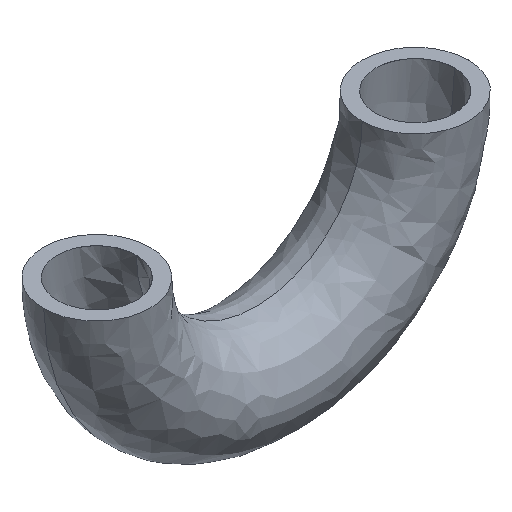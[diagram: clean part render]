
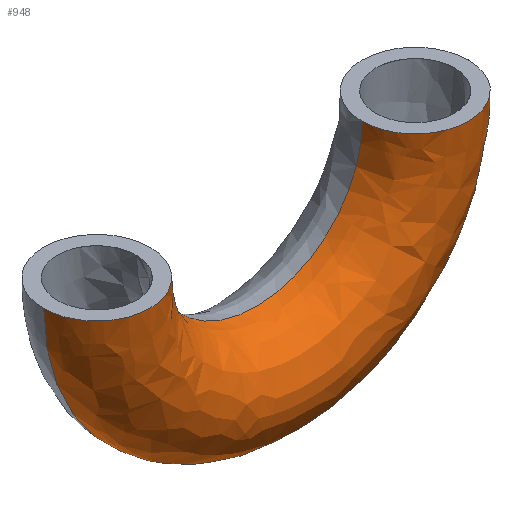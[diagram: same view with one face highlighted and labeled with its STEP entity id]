
A CAD part, isometric view. The second image highlights one B-rep face of the part: STEP entity #948.
In plain terms, the highlighted free-form (B-spline) face has degree [3, 3] with [4, 4] control points.
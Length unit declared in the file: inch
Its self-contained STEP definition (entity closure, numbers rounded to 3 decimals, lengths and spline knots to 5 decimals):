
#59 = CIRCLE ( 'NONE', #1510, 0.25 ) ;
#103 = ORIENTED_EDGE ( 'NONE', *, *, #581, .F. ) ;
#144 = EDGE_LOOP ( 'NONE', ( #103, #179, #1512, #2569 ) ) ;
#179 = ORIENTED_EDGE ( 'NONE', *, *, #1380, .T. ) ;
#186 = CARTESIAN_POINT ( 'NONE',  ( -0.74997, 0., -0.00671 ) ) ;
#251 = CARTESIAN_POINT ( 'NONE',  ( -0.23657, 0., -0.99994 ) ) ;
#260 = CARTESIAN_POINT ( 'NONE',  ( 0.25, 0., 0. ) ) ;
#440 = DIRECTION ( 'NONE',  ( -1., 0., -0.013 ) ) ;
#499 = CARTESIAN_POINT ( 'NONE',  ( -1.24994, -0.5, -0.01343 ) ) ;
#530 = CARTESIAN_POINT ( 'NONE',  ( -0.74997, 0., -0.00671 ) ) ;
#557 = DIRECTION ( 'NONE',  ( 0., 0., 1. ) ) ;
#581 = EDGE_CURVE ( 'NONE', #1926, #769, #1459, .T. ) ;
#719 = FACE_OUTER_BOUND ( 'NONE', #144, .T. ) ;
#746 = CARTESIAN_POINT ( 'NONE',  ( -0.23657, -0.5, -0.99994 ) ) ;
#769 = VERTEX_POINT ( 'NONE', #2928 ) ;
#781 = DIRECTION ( 'NONE',  ( -1., 0., -0.007 ) ) ;
#822 = CARTESIAN_POINT ( 'NONE',  ( 0.25, 0., 0. ) ) ;
#948 = ADVANCED_FACE ( 'NONE', ( #719 ), #2194, .T. ) ;
#1000 = CARTESIAN_POINT ( 'NONE',  ( -1.74994, -0.5, -0.01343 ) ) ;
#1073 = CARTESIAN_POINT ( 'NONE',  ( -1.49994, 0., -0.01343 ) ) ;
#1088 = AXIS2_PLACEMENT_3D ( 'NONE', #2045, #557, #2291 ) ;
#1214 = EDGE_CURVE ( 'NONE', #2632, #1597, #3146, .T. ) ;
#1246 = CARTESIAN_POINT ( 'NONE',  ( 0.26343, -0.5, -1.99994 ) ) ;
#1258 = CARTESIAN_POINT ( 'NONE',  ( -1.24994, 0., -0.01343 ) ) ;
#1321 = DIRECTION ( 'NONE',  ( -1., 0., 0. ) ) ;
#1380 = EDGE_CURVE ( 'NONE', #1926, #2632, #59, .T. ) ;
#1459 = CIRCLE ( 'NONE', #1842, 0.50002 ) ;
#1487 = CARTESIAN_POINT ( 'NONE',  ( -1.23651, 0., -1.01337 ) ) ;
#1498 = CARTESIAN_POINT ( 'NONE',  ( -1.74994, 0., -0.01343 ) ) ;
#1510 = AXIS2_PLACEMENT_3D ( 'NONE', #1073, #2777, #1321 ) ;
#1512 = ORIENTED_EDGE ( 'NONE', *, *, #1214, .T. ) ;
#1597 = VERTEX_POINT ( 'NONE', #822 ) ;
#1635 = AXIS2_PLACEMENT_3D ( 'NONE', #530, #2264, #781 ) ;
#1745 = CARTESIAN_POINT ( 'NONE',  ( 0.26343, 0., -1.99994 ) ) ;
#1842 = AXIS2_PLACEMENT_3D ( 'NONE', #186, #1920, #440 ) ;
#1920 = DIRECTION ( 'NONE',  ( 0., -1., 0. ) ) ;
#1926 = VERTEX_POINT ( 'NONE', #1258 ) ;
#1983 = CARTESIAN_POINT ( 'NONE',  ( -0.25, 0., 0. ) ) ;
#2045 = CARTESIAN_POINT ( 'NONE',  ( 0., 0., 0. ) ) ;
#2111 = EDGE_CURVE ( 'NONE', #769, #1597, #2573, .T. ) ;
#2194 =( BOUNDED_SURFACE ( )  B_SPLINE_SURFACE ( 3, 3, ( 
 ( #3160, #1487, #251, #1983 ),
 ( #499, #2229, #746, #2462 ),
 ( #1000, #2699, #1246, #2939 ),
 ( #1498, #3171, #1745, #260 ) ),
 .UNSPECIFIED., .F., .F., .T. ) 
 B_SPLINE_SURFACE_WITH_KNOTS ( ( 4, 4 ),
 ( 4, 4 ),
 ( 0., 1. ),
 ( 0., 1. ),
 .UNSPECIFIED. ) 
 GEOMETRIC_REPRESENTATION_ITEM ( )  RATIONAL_B_SPLINE_SURFACE ( (
 ( 1., 0.333, 0.333, 1.),
 ( 0.333, 0.111, 0.111, 0.333),
 ( 0.333, 0.111, 0.111, 0.333),
 ( 1., 0.333, 0.333, 1.) ) ) 
 REPRESENTATION_ITEM ( '' )  SURFACE ( )  );
#2229 = CARTESIAN_POINT ( 'NONE',  ( -1.23651, -0.5, -1.01337 ) ) ;
#2264 = DIRECTION ( 'NONE',  ( 0., -1., 0. ) ) ;
#2291 = DIRECTION ( 'NONE',  ( 1., 0., 0. ) ) ;
#2462 = CARTESIAN_POINT ( 'NONE',  ( -0.25, -0.5, 0. ) ) ;
#2569 = ORIENTED_EDGE ( 'NONE', *, *, #2111, .F. ) ;
#2573 = CIRCLE ( 'NONE', #1088, 0.25 ) ;
#2632 = VERTEX_POINT ( 'NONE', #2672 ) ;
#2672 = CARTESIAN_POINT ( 'NONE',  ( -1.74994, 0., -0.01343 ) ) ;
#2699 = CARTESIAN_POINT ( 'NONE',  ( -1.73651, -0.5, -2.01337 ) ) ;
#2777 = DIRECTION ( 'NONE',  ( 0., 0., -1. ) ) ;
#2928 = CARTESIAN_POINT ( 'NONE',  ( -0.25, 0., 0. ) ) ;
#2939 = CARTESIAN_POINT ( 'NONE',  ( 0.25, -0.5, 0. ) ) ;
#3146 = CIRCLE ( 'NONE', #1635, 0.99999 ) ;
#3160 = CARTESIAN_POINT ( 'NONE',  ( -1.24994, 0., -0.01343 ) ) ;
#3171 = CARTESIAN_POINT ( 'NONE',  ( -1.73651, 0., -2.01337 ) ) ;
